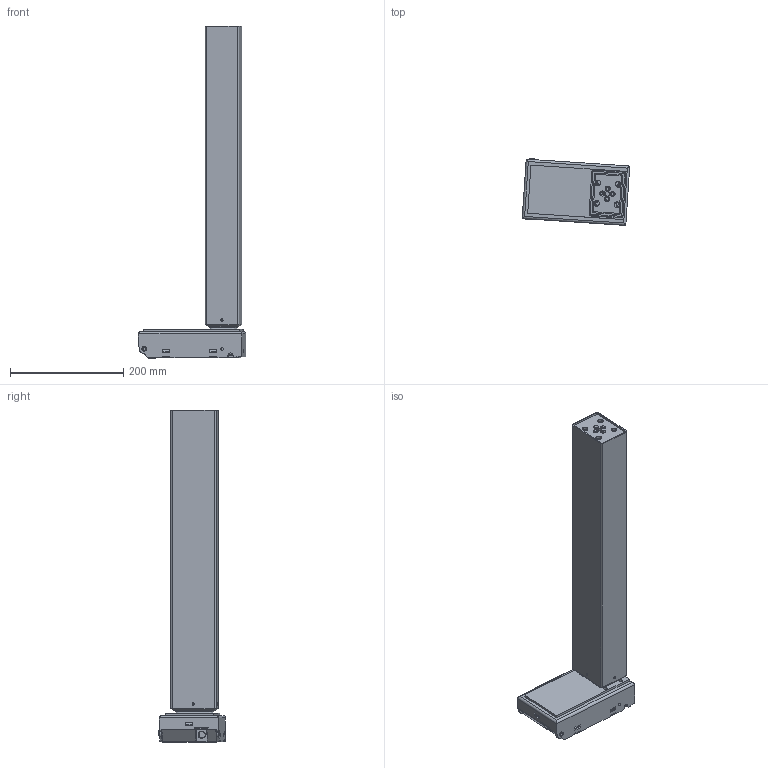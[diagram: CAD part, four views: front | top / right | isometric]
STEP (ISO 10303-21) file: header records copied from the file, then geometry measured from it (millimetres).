
FILE_DESCRIPTION (( 'STEP AP203' ), '1' );
FILE_NAME ('3D_TL10H.STEP', '2019-05-30T03:38:11', ( '' ), ( '' ), 'SwSTEP 2.0', 'SolidWorks 2015', '' );
FILE_SCHEMA (( 'CONFIG_CONTROL_DESIGN' ));
Products named in the file (1): 3D_TL10H
Bounding box: 189.49 x 117.96 x 585.5 mm (x, y, z)
Volume: 1014215.2 mm3; surface area: 922466.3 mm2
Topology: 32 solids, 32 shells, 3986 faces, 10039 edges, 6052 vertices
Faces by surface type: plane 1588, cylinder 1497, torus 314, bspline 294, cone 156, sphere 137
Entity records: 122451 total; most frequent: CARTESIAN_POINT 28979, ORIENTED_EDGE 19534, DIRECTION 19526, EDGE_CURVE 9767, AXIS2_PLACEMENT_3D 6954, VERTEX_POINT 6052, VECTOR 5618, LINE 5618
